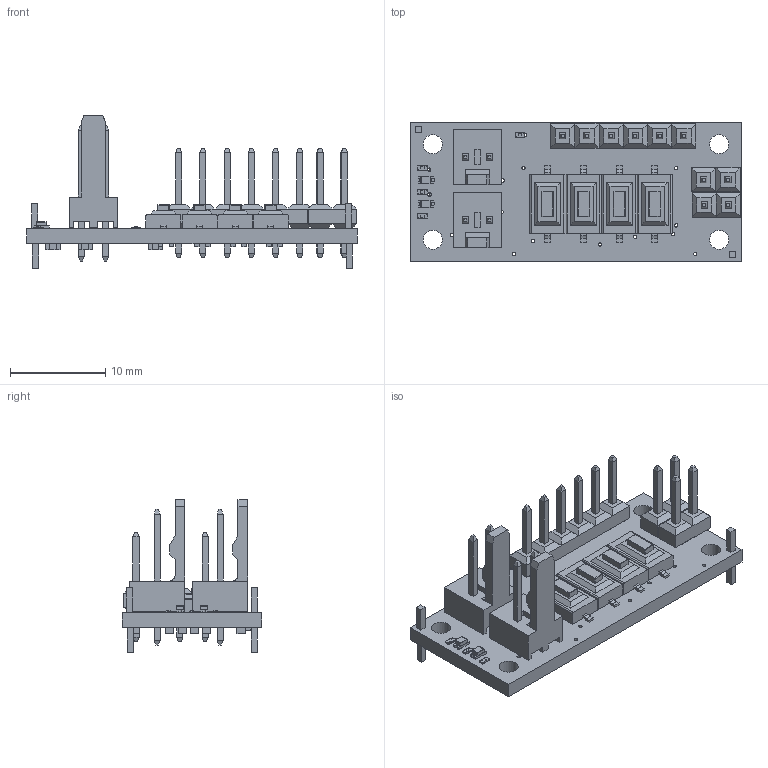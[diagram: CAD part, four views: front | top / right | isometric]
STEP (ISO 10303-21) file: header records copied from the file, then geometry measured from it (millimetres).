
FILE_DESCRIPTION(/* description */ (''),/* implementation_level */ '2;1');
FILE_NAME(/* name */ 'C:/Users/priba/Documents/Temp/Export/mrm-leds v1.step',/* time_stamp */ '2019-09-09T00:15:10+02:00',/* author */ (''),/* organization */ (''),/* preprocessor_version */ 'ST-DEVELOPER v18',/* originating_system */ 'Autodesk Translation Framework v8.6.0.1094',/* authorisation */ '');
FILE_SCHEMA (('AUTOMOTIVE_DESIGN { 1 0 10303 214 3 1 1 }'));
Length unit declared in the file: millimetre
Products named in the file (12): mrm-leds; PCB Component; Board; FIDUCIALUFIDUCIAL; 1X02; 1X06_NO_SILK; MOLEX_22-27-2021; CHIP-LED0603; CHIPLED_0402; 1.5 kOhm; 510 Ohm; SWITCH-SPST-SMD-6.0X3.5MM
Assembly tree (35 placements, depth 3):
  mrm-leds
    PCB Component
      Board
      FIDUCIALUFIDUCIAL  x4
      1X02  x2
      1X06_NO_SILK
      MOLEX_22-27-2021  x2
      CHIP-LED0603  x2
      CHIPLED_0402  x4
      1.5 kOhm  x6
      510 Ohm  x8
      SWITCH-SPST-SMD-6.0X3.5MM  x4
Bounding box: 34.6 x 14.6 x 16.03 mm (x, y, z)
Volume: 1318.9 mm3; surface area: 2728.6 mm2
Topology: 84 solids, 84 shells, 2462 faces, 6442 edges, 4204 vertices
Faces by surface type: plane 1422, cylinder 640, sphere 240, bspline 152, torus 8
Full cylindrical faces by diameter (mm): 0.35 x24, 1.016 x10, 1.11 x4, 2 x4
Entity records: 25142 total; most frequent: CARTESIAN_POINT 6264, ORIENTED_EDGE 3792, DIRECTION 3435, EDGE_CURVE 1896, LINE 1329, VECTOR 1329, VERTEX_POINT 1205, AXIS2_PLACEMENT_3D 1053
